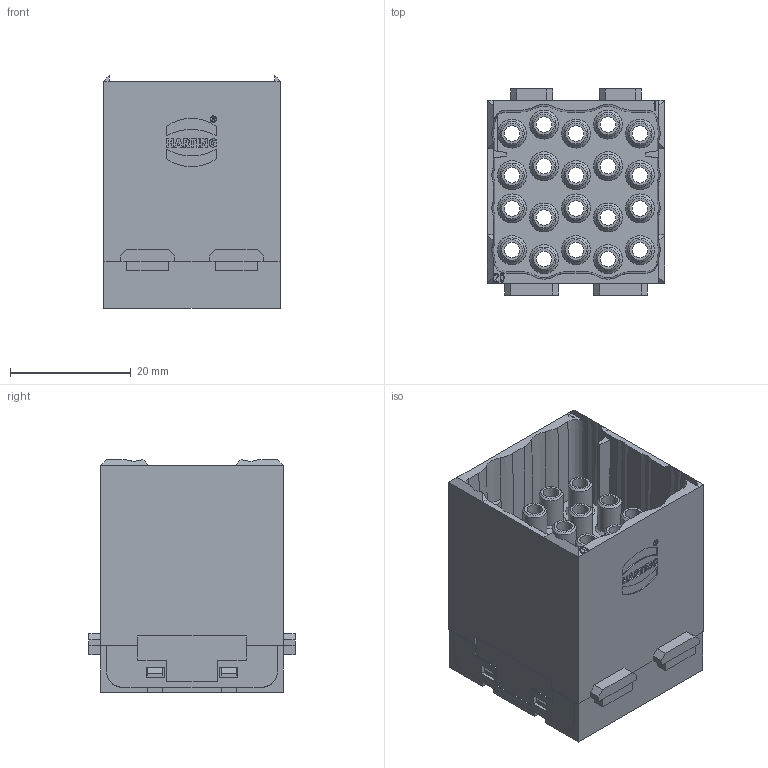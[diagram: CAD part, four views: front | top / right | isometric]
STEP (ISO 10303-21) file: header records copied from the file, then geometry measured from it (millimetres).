
FILE_DESCRIPTION(/* description */ (''),/* implementation_level */ '2;1');
FILE_NAME(/* name */ '100095324ugm000_e.stp',/* time_stamp */ '2022-03-16T13:08:16+01:00',/* author */ (''),/* organization */ (''),/* preprocessor_version */ 'ST-DEVELOPER v16.7',/* originating_system */ 'SIEMENS PLM Software NX 1911',/* authorisation */ '');
FILE_SCHEMA (('AUTOMOTIVE_DESIGN { 1 0 10303 214 3 1 1 1 }'));
Length unit declared in the file: millimetre
Products named in the file (1): 100095324ugm000_e
Bounding box: 29.35 x 34.2 x 38.58 mm (x, y, z)
Volume: 14969.3 mm3; surface area: 17181.7 mm2
Topology: 1 solids, 1 shells, 828 faces, 2177 edges, 1427 vertices
Faces by surface type: plane 504, cylinder 122, cone 104, extrusion 78, bspline 20
Full cylindrical faces by diameter (mm): 0.911 x1, 1.077 x1, 2.6 x20, 4 x20, 4.8 x20
Entity records: 31475 total; most frequent: CARTESIAN_POINT 6314, ORIENTED_EDGE 4014, DIRECTION 3615, EDGE_CURVE 2007, VERTEX_POINT 1390, VECTOR 1287, LINE 1209, AXIS2_PLACEMENT_3D 1164
